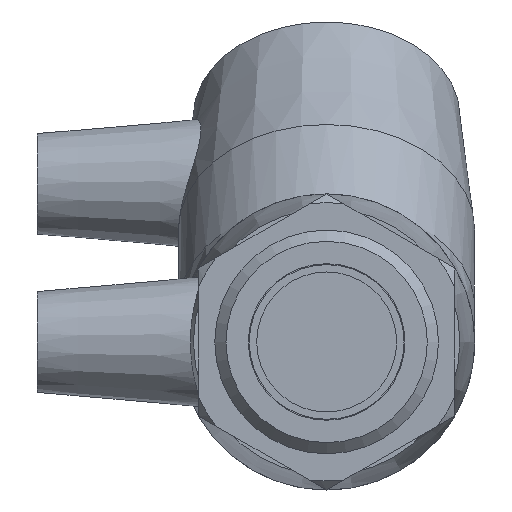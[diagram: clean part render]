
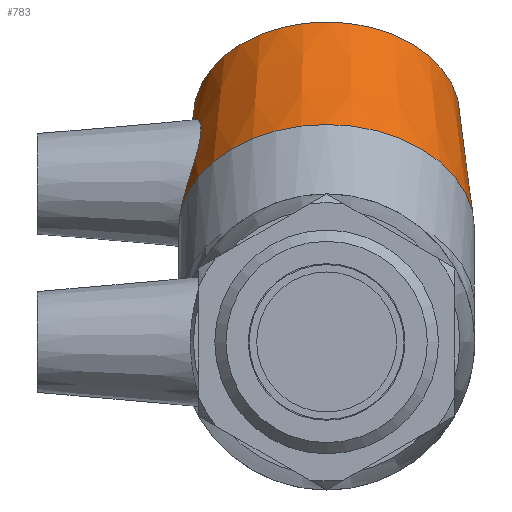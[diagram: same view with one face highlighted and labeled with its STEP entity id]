
A CAD part, left-side view. The second image highlights one B-rep face of the part: STEP entity #783.
In plain terms, the highlighted conical face has half-angle 5.292 degrees and reference radius 20.9 mm.
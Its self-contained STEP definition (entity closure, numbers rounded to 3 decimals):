
#15=B_SPLINE_CURVE_WITH_KNOTS('',3,(#1400,#1401,#1402,#1403,#1404,#1405,
#1406,#1407,#1408,#1409,#1410,#1411,#1412,#1413,#1414,#1415,#1416,#1417,
#1418,#1419,#1420,#1421,#1422,#1423,#1424,#1425,#1426,#1427,#1428,#1429,
#1430,#1431,#1432,#1433),.UNSPECIFIED.,.T.,.F.,(4,2,2,2,2,2,2,2,2,2,2,2,
2,2,2,2,4),(0.,0.35,0.701,1.054,1.408,
1.761,2.115,2.465,2.816,3.2,
3.584,3.957,4.33,4.703,5.076,
5.46,5.845),.UNSPECIFIED.);
#141=FACE_BOUND('',#285,.T.);
#142=FACE_BOUND('',#286,.T.);
#202=FACE_OUTER_BOUND('',#284,.T.);
#284=EDGE_LOOP('',(#689));
#285=EDGE_LOOP('',(#690));
#286=EDGE_LOOP('',(#691));
#347=CIRCLE('',#874,22.);
#351=CIRCLE('',#885,19.8);
#420=VERTEX_POINT('',#1395);
#421=VERTEX_POINT('',#1399);
#425=VERTEX_POINT('',#1445);
#513=EDGE_CURVE('',#420,#420,#347,.T.);
#515=EDGE_CURVE('',#421,#421,#15,.T.);
#519=EDGE_CURVE('',#425,#425,#351,.T.);
#689=ORIENTED_EDGE('',*,*,#513,.F.);
#690=ORIENTED_EDGE('',*,*,#515,.T.);
#691=ORIENTED_EDGE('',*,*,#519,.T.);
#733=CONICAL_SURFACE('',#886,20.9,5.292);
#783=ADVANCED_FACE('',(#202,#141,#142),#733,.T.);
#874=AXIS2_PLACEMENT_3D('',#1396,#1076,#1077);
#885=AXIS2_PLACEMENT_3D('',#1446,#1098,#1099);
#886=AXIS2_PLACEMENT_3D('',#1447,#1100,#1101);
#1076=DIRECTION('center_axis',(-0.707,0.,
-0.707));
#1077=DIRECTION('ref_axis',(-0.707,0.,0.707));
#1098=DIRECTION('center_axis',(-0.707,0.,
-0.707));
#1099=DIRECTION('ref_axis',(-0.707,0.,0.707));
#1100=DIRECTION('center_axis',(-0.707,0.,
-0.707));
#1101=DIRECTION('ref_axis',(0.,1.,0.));
#1395=CARTESIAN_POINT('',(16.757,22.,16.757));
#1396=CARTESIAN_POINT('Origin',(16.757,0.,16.757));
#1399=CARTESIAN_POINT('',(30.642,18.752,17.052));
#1400=CARTESIAN_POINT('Ctrl Pts',(30.642,18.752,17.052));
#1401=CARTESIAN_POINT('Ctrl Pts',(31.43,18.656,17.909));
#1402=CARTESIAN_POINT('Ctrl Pts',(32.094,18.681,18.98));
#1403=CARTESIAN_POINT('Ctrl Pts',(32.936,18.937,21.289));
#1404=CARTESIAN_POINT('Ctrl Pts',(33.116,19.158,22.528));
#1405=CARTESIAN_POINT('Ctrl Pts',(33.039,19.582,24.834));
#1406=CARTESIAN_POINT('Ctrl Pts',(32.774,19.815,26.066));
#1407=CARTESIAN_POINT('Ctrl Pts',(31.784,20.144,28.344));
#1408=CARTESIAN_POINT('Ctrl Pts',(31.056,20.236,29.39));
#1409=CARTESIAN_POINT('Ctrl Pts',(29.39,20.236,31.056));
#1410=CARTESIAN_POINT('Ctrl Pts',(28.344,20.144,31.784));
#1411=CARTESIAN_POINT('Ctrl Pts',(26.066,19.815,32.774));
#1412=CARTESIAN_POINT('Ctrl Pts',(24.834,19.582,33.039));
#1413=CARTESIAN_POINT('Ctrl Pts',(22.528,19.158,33.116));
#1414=CARTESIAN_POINT('Ctrl Pts',(21.289,18.937,32.936));
#1415=CARTESIAN_POINT('Ctrl Pts',(18.98,18.681,32.094));
#1416=CARTESIAN_POINT('Ctrl Pts',(17.909,18.656,31.43));
#1417=CARTESIAN_POINT('Ctrl Pts',(16.112,18.857,29.778));
#1418=CARTESIAN_POINT('Ctrl Pts',(15.327,19.117,28.677));
#1419=CARTESIAN_POINT('Ctrl Pts',(14.299,19.812,26.274));
#1420=CARTESIAN_POINT('Ctrl Pts',(14.053,20.237,24.971));
#1421=CARTESIAN_POINT('Ctrl Pts',(14.058,20.972,22.556));
#1422=CARTESIAN_POINT('Ctrl Pts',(14.295,21.336,21.275));
#1423=CARTESIAN_POINT('Ctrl Pts',(15.28,21.842,18.891));
#1424=CARTESIAN_POINT('Ctrl Pts',(16.029,21.98,17.787));
#1425=CARTESIAN_POINT('Ctrl Pts',(17.787,21.98,16.029));
#1426=CARTESIAN_POINT('Ctrl Pts',(18.891,21.842,15.28));
#1427=CARTESIAN_POINT('Ctrl Pts',(21.275,21.336,14.295));
#1428=CARTESIAN_POINT('Ctrl Pts',(22.556,20.972,14.058));
#1429=CARTESIAN_POINT('Ctrl Pts',(24.971,20.237,14.053));
#1430=CARTESIAN_POINT('Ctrl Pts',(26.274,19.812,14.299));
#1431=CARTESIAN_POINT('Ctrl Pts',(28.677,19.117,15.327));
#1432=CARTESIAN_POINT('Ctrl Pts',(29.778,18.857,16.112));
#1433=CARTESIAN_POINT('Ctrl Pts',(30.642,18.752,17.052));
#1445=CARTESIAN_POINT('',(33.551,19.8,33.551));
#1446=CARTESIAN_POINT('Origin',(33.551,0.,33.551));
#1447=CARTESIAN_POINT('Origin',(25.154,0.,25.154));
